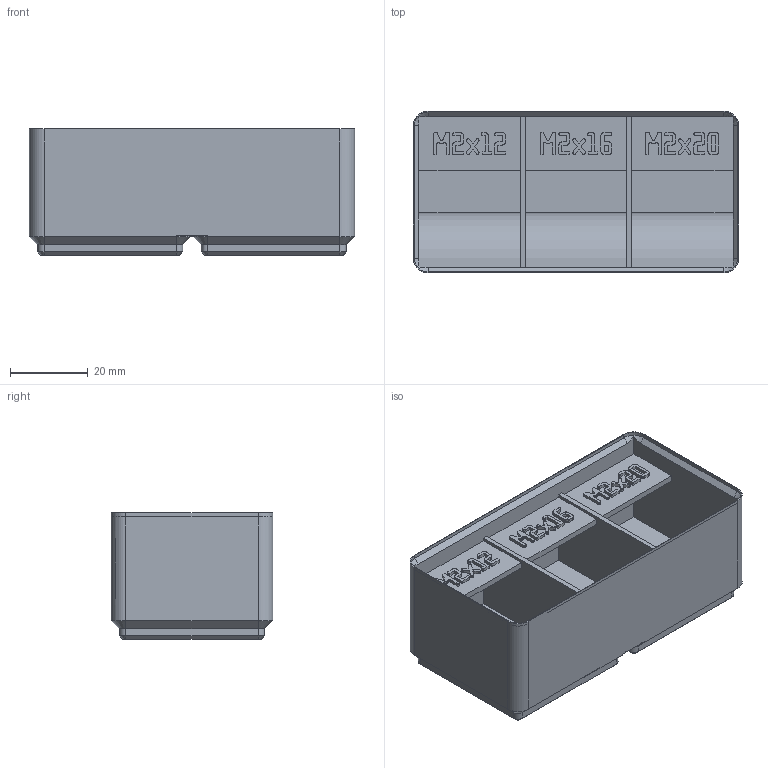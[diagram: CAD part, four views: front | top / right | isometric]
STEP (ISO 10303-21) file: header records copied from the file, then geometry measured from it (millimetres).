
FILE_DESCRIPTION(('Open CASCADE Model'),'2;1');
FILE_NAME('Open CASCADE Shape Model','2026-11-16T17:31:26',('Author'),( 'Open CASCADE'),'Open CASCADE STEP processor 8.0','build123d', 'Unknown');
FILE_SCHEMA(('AUTOMOTIVE_DESIGN { 1 0 10303 214 1 1 1 1 }'));
Products named in the file (1): SOLID
Bounding box: 83.5 x 41.5 x 32.4 mm (x, y, z)
Volume: 49381.1 mm3; surface area: 23508.9 mm2
Topology: 1 solids, 1 shells, 1741 faces, 5101 edges, 3382 vertices
Faces by surface type: plane 1698, cylinder 23, cone 20
Entity records: 119586 total; most frequent: CARTESIAN_POINT 24015, DIRECTION 15445, LINE 11813, VECTOR 11813, ORIENTED_EDGE 10202, PCURVE 10202, DEFINITIONAL_REPRESENTATION 10202, EDGE_CURVE 5101
